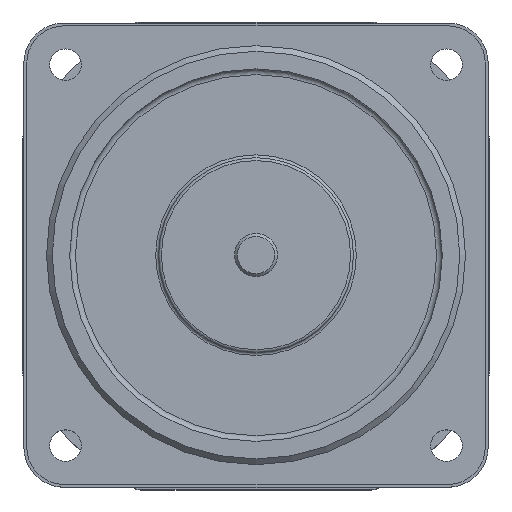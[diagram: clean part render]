
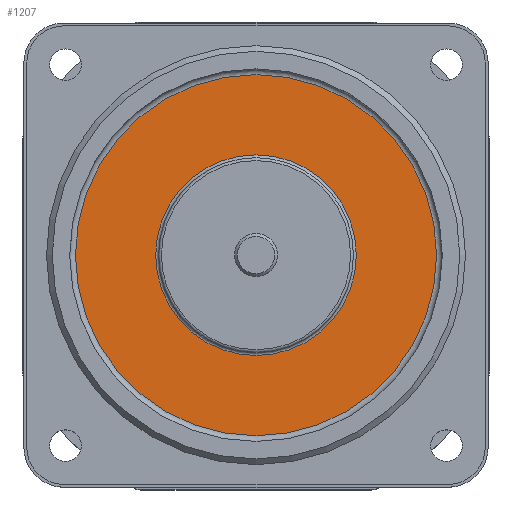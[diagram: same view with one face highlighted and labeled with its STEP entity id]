
A CAD part, top view. The second image highlights one B-rep face of the part: STEP entity #1207.
In plain terms, the highlighted planar face has unit normal (0, 0, 1).
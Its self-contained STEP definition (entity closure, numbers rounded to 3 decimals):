
#119 = FACE_BOUND ( 'NONE', #2479, .T. ) ;
#277 = DIRECTION ( 'NONE',  ( 0., 0., 1. ) ) ;
#406 = CIRCLE ( 'NONE', #3127, 17.5 ) ;
#497 = DIRECTION ( 'NONE',  ( 1., 0., 0. ) ) ;
#605 = PLANE ( 'NONE',  #3974 ) ;
#924 = DIRECTION ( 'NONE',  ( 1., 0., 0. ) ) ;
#1072 = CARTESIAN_POINT ( 'NONE',  ( 0., 0., -3.3 ) ) ;
#1190 = CARTESIAN_POINT ( 'NONE',  ( 31.5, 0., -3.3 ) ) ;
#1191 = EDGE_LOOP ( 'NONE', ( #1656 ) ) ;
#1207 = ADVANCED_FACE ( 'NONE', ( #3369, #119 ), #605, .T. ) ;
#1607 = ORIENTED_EDGE ( 'NONE', *, *, #3191, .T. ) ;
#1656 = ORIENTED_EDGE ( 'NONE', *, *, #2824, .T. ) ;
#1664 = VERTEX_POINT ( 'NONE', #2159 ) ;
#1804 = DIRECTION ( 'NONE',  ( 0., 0., 1. ) ) ;
#1888 = CIRCLE ( 'NONE', #2154, 31.5 ) ;
#2105 = VERTEX_POINT ( 'NONE', #1190 ) ;
#2108 = DIRECTION ( 'NONE',  ( 1., 0., 0. ) ) ;
#2154 = AXIS2_PLACEMENT_3D ( 'NONE', #1072, #1804, #497 ) ;
#2159 = CARTESIAN_POINT ( 'NONE',  ( 17.5, 0., -3.3 ) ) ;
#2476 = CARTESIAN_POINT ( 'NONE',  ( 0., 0., -3.3 ) ) ;
#2479 = EDGE_LOOP ( 'NONE', ( #1607 ) ) ;
#2816 = DIRECTION ( 'NONE',  ( 0., 0., -1. ) ) ;
#2824 = EDGE_CURVE ( 'NONE', #2105, #2105, #1888, .T. ) ;
#3127 = AXIS2_PLACEMENT_3D ( 'NONE', #2476, #2816, #2108 ) ;
#3191 = EDGE_CURVE ( 'NONE', #1664, #1664, #406, .T. ) ;
#3369 = FACE_OUTER_BOUND ( 'NONE', #1191, .T. ) ;
#3974 = AXIS2_PLACEMENT_3D ( 'NONE', #4214, #277, #924 ) ;
#4214 = CARTESIAN_POINT ( 'NONE',  ( 0., 0., -3.3 ) ) ;
